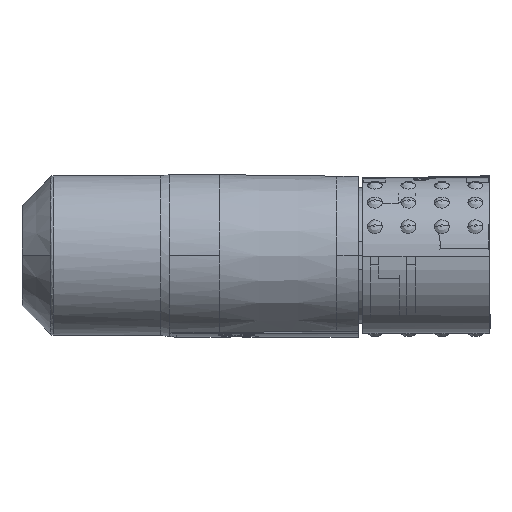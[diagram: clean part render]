
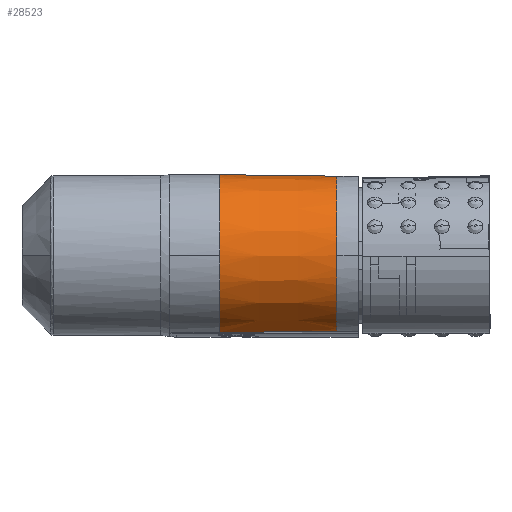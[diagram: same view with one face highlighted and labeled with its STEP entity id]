
A CAD part, top view. The second image highlights one B-rep face of the part: STEP entity #28523.
In plain terms, the highlighted conical face has half-angle 0.728 degrees and reference radius 10.66 mm.
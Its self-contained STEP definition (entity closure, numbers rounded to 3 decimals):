
#116 = VERTEX_POINT ( 'NONE', #63482 ) ;
#1628 = EDGE_LOOP ( 'NONE', ( #13717, #75778, #80075, #52667, #14424, #95344, #93107, #18989, #54878 ) ) ;
#1651 = CARTESIAN_POINT ( 'NONE',  ( 61.165, 1.73, 8.093 ) ) ;
#1661 = CARTESIAN_POINT ( 'NONE',  ( 76.895, -1.255, 9.797 ) ) ;
#1829 = B_SPLINE_CURVE_WITH_KNOTS ( 'NONE', 3,
 ( #7045, #44666, #8945, #1661, #31426, #24146, #61238, #7971, #37798, #7520 ),
 .UNSPECIFIED., .F., .F.,
 ( 4, 2, 2, 2, 4 ),
 ( 0.75, 0.8, 0.85, 0.9, 0.95 ),
 .UNSPECIFIED. ) ;
#2124 = FACE_OUTER_BOUND ( 'NONE', #1628, .T. ) ;
#3068 = CARTESIAN_POINT ( 'NONE',  ( 76.895, -15.729, 3.325 ) ) ;
#5145 = EDGE_CURVE ( 'NONE', #78056, #18802, #36345, .T. ) ;
#5641 = CARTESIAN_POINT ( 'NONE',  ( 61.165, -13.748, 7.272 ) ) ;
#7045 = CARTESIAN_POINT ( 'NONE',  ( 76.895, -5.601, 10.66 ) ) ;
#7073 = CARTESIAN_POINT ( 'NONE',  ( 61.165, -15.603, 4.384 ) ) ;
#7520 = CARTESIAN_POINT ( 'NONE',  ( 76.895, 4.527, 3.325 ) ) ;
#7971 = CARTESIAN_POINT ( 'NONE',  ( 76.895, 3.665, 5.386 ) ) ;
#8201 = CARTESIAN_POINT ( 'NONE',  ( 76.895, -12.756, 7.98 ) ) ;
#8462 = CARTESIAN_POINT ( 'NONE',  ( 61.165, 4.4, 4.384 ) ) ;
#8945 = CARTESIAN_POINT ( 'NONE',  ( 76.895, -3.374, 10.484 ) ) ;
#9961 = CARTESIAN_POINT ( 'NONE',  ( 61.165, -15.949, 3.295 ) ) ;
#10966 = CARTESIAN_POINT ( 'NONE',  ( 76.895, 4.527, 3.325 ) ) ;
#11190 = CARTESIAN_POINT ( 'NONE',  ( 76.895, -15.729, 3.325 ) ) ;
#12620 = CARTESIAN_POINT ( 'NONE',  ( 70.732, -15.813, 3.322 ) ) ;
#13717 = ORIENTED_EDGE ( 'NONE', *, *, #91884, .T. ) ;
#14329 = CARTESIAN_POINT ( 'NONE',  ( 61.173, -5.601, 10.86 ) ) ;
#14424 = ORIENTED_EDGE ( 'NONE', *, *, #31036, .F. ) ;
#14854 = CARTESIAN_POINT ( 'NONE',  ( 61.165, -10.058, 9.969 ) ) ;
#15059 = CARTESIAN_POINT ( 'NONE',  ( 76.895, -15.382, 4.383 ) ) ;
#15636 = CARTESIAN_POINT ( 'NONE',  ( 61.165, 5.259, 0. ) ) ;
#16391 = VERTEX_POINT ( 'NONE', #30358 ) ;
#18687 = DIRECTION ( 'NONE',  ( -1., 0., 0. ) ) ;
#18802 = VERTEX_POINT ( 'NONE', #45520 ) ;
#18989 = ORIENTED_EDGE ( 'NONE', *, *, #46296, .F. ) ;
#20548 = EDGE_CURVE ( 'NONE', #93512, #45805, #46551, .T. ) ;
#20581 = DIRECTION ( 'NONE',  ( 0., 1., 0. ) ) ;
#22668 = CARTESIAN_POINT ( 'NONE',  ( 61.165, -0.115, 9.441 ) ) ;
#23004 = CARTESIAN_POINT ( 'NONE',  ( 61.165, 4.747, 3.295 ) ) ;
#23218 = CARTESIAN_POINT ( 'NONE',  ( 63.977, -15.905, 3.315 ) ) ;
#24146 = CARTESIAN_POINT ( 'NONE',  ( 76.895, 1.553, 7.98 ) ) ;
#27424 = EDGE_CURVE ( 'NONE', #18802, #39761, #33700, .T. ) ;
#28031 = CARTESIAN_POINT ( 'NONE',  ( 61.165, -15.949, 3.295 ) ) ;
#28523 = ADVANCED_FACE ( 'NONE', ( #2124 ), #45941, .T. ) ;
#30358 = CARTESIAN_POINT ( 'NONE',  ( 76.895, 4.527, 3.325 ) ) ;
#30479 = CARTESIAN_POINT ( 'NONE',  ( 61.165, 4.747, 3.295 ) ) ;
#31036 = EDGE_CURVE ( 'NONE', #78056, #45805, #76441, .T. ) ;
#31426 = CARTESIAN_POINT ( 'NONE',  ( 76.895, -0.251, 9.287 ) ) ;
#31897 = CARTESIAN_POINT ( 'NONE',  ( 76.895, -5.601, 0. ) ) ;
#33700 = B_SPLINE_CURVE_WITH_KNOTS ( 'NONE', 3,
 ( #12620, #94332, #72280, #11190 ),
 .UNSPECIFIED., .F., .F.,
 ( 4, 4 ),
 ( 0., 1. ),
 .UNSPECIFIED. ) ;
#36345 = B_SPLINE_CURVE_WITH_KNOTS ( 'NONE', 3,
 ( #9961, #23218, #75993, #39312 ),
 .UNSPECIFIED., .F., .F.,
 ( 4, 4 ),
 ( 0., 1. ),
 .UNSPECIFIED. ) ;
#37300 = CARTESIAN_POINT ( 'NONE',  ( 61.165, 2.545, 7.272 ) ) ;
#37341 = CARTESIAN_POINT ( 'NONE',  ( 61.173, -5.601, 10.86 ) ) ;
#37798 = CARTESIAN_POINT ( 'NONE',  ( 76.895, 4.18, 4.383 ) ) ;
#39312 = CARTESIAN_POINT ( 'NONE',  ( 70.732, -15.813, 3.322 ) ) ;
#39761 = VERTEX_POINT ( 'NONE', #3068 ) ;
#41974 = EDGE_CURVE ( 'NONE', #93512, #53784, #85860, .T. ) ;
#44666 = CARTESIAN_POINT ( 'NONE',  ( 76.895, -4.488, 10.66 ) ) ;
#44695 = CARTESIAN_POINT ( 'NONE',  ( 61.165, -7.886, 10.678 ) ) ;
#45520 = CARTESIAN_POINT ( 'NONE',  ( 70.732, -15.813, 3.322 ) ) ;
#45805 = VERTEX_POINT ( 'NONE', #78577 ) ;
#45941 = CONICAL_SURFACE ( 'NONE', #63079, 10.66, 0.013 ) ;
#46296 = EDGE_CURVE ( 'NONE', #116, #39761, #65500, .T. ) ;
#46551 = B_SPLINE_CURVE_WITH_KNOTS ( 'NONE', 3,
 ( #30479, #8462, #51463, #37300, #1651, #22668, #73980, #60290, #81345, #14329 ),
 .UNSPECIFIED., .F., .F.,
 ( 4, 2, 2, 2, 4 ),
 ( 0.549, 0.599, 0.65, 0.7, 0.75 ),
 .UNSPECIFIED. ) ;
#48614 = VERTEX_POINT ( 'NONE', #91442 ) ;
#48640 = CARTESIAN_POINT ( 'NONE',  ( 76.895, 5.014, 1.127 ) ) ;
#50016 = EDGE_CURVE ( 'NONE', #48614, #53784, #96177, .T. ) ;
#51463 = CARTESIAN_POINT ( 'NONE',  ( 61.165, 3.88, 5.417 ) ) ;
#51687 = CARTESIAN_POINT ( 'NONE',  ( 76.895, -14.868, 5.386 ) ) ;
#52667 = ORIENTED_EDGE ( 'NONE', *, *, #20548, .T. ) ;
#52959 = EDGE_CURVE ( 'NONE', #116, #16391, #1829, .T. ) ;
#53784 = VERTEX_POINT ( 'NONE', #65199 ) ;
#54518 = CARTESIAN_POINT ( 'NONE',  ( 76.895, 4.703, 2.79 ) ) ;
#54878 = ORIENTED_EDGE ( 'NONE', *, *, #52959, .T. ) ;
#58397 = CARTESIAN_POINT ( 'NONE',  ( 61.165, -12.933, 8.093 ) ) ;
#60290 = CARTESIAN_POINT ( 'NONE',  ( 61.165, -3.316, 10.678 ) ) ;
#60508 = CARTESIAN_POINT ( 'NONE',  ( 76.895, -15.729, 3.325 ) ) ;
#61238 = CARTESIAN_POINT ( 'NONE',  ( 76.895, 2.352, 7.185 ) ) ;
#63079 = AXIS2_PLACEMENT_3D ( 'NONE', #31897, #18687, #20581 ) ;
#63482 = CARTESIAN_POINT ( 'NONE',  ( 76.895, -5.601, 10.66 ) ) ;
#65199 = CARTESIAN_POINT ( 'NONE',  ( 61.165, 5.259, 0. ) ) ;
#65500 = B_SPLINE_CURVE_WITH_KNOTS ( 'NONE', 3,
 ( #81579, #82565, #68314, #74683, #82071, #8201, #67341, #51687, #15059, #60508 ),
 .UNSPECIFIED., .F., .F.,
 ( 4, 2, 2, 2, 4 ),
 ( 0., 0.25, 0.5, 0.75, 1. ),
 .UNSPECIFIED. ) ;
#65687 = CARTESIAN_POINT ( 'NONE',  ( 61.165, -11.088, 9.441 ) ) ;
#67341 = CARTESIAN_POINT ( 'NONE',  ( 76.895, -13.554, 7.185 ) ) ;
#68314 = CARTESIAN_POINT ( 'NONE',  ( 76.895, -7.828, 10.484 ) ) ;
#69206 = CARTESIAN_POINT ( 'NONE',  ( 61.165, 4.747, 3.295 ) ) ;
#71591 = CARTESIAN_POINT ( 'NONE',  ( 76.895, 5.059, 0.564 ) ) ;
#72280 = CARTESIAN_POINT ( 'NONE',  ( 74.841, -15.757, 3.325 ) ) ;
#73980 = CARTESIAN_POINT ( 'NONE',  ( 61.165, -1.144, 9.969 ) ) ;
#74021 = CARTESIAN_POINT ( 'NONE',  ( 61.165, -15.949, 3.295 ) ) ;
#74490 = CARTESIAN_POINT ( 'NONE',  ( 61.165, -6.744, 10.86 ) ) ;
#74683 = CARTESIAN_POINT ( 'NONE',  ( 76.895, -9.947, 9.797 ) ) ;
#75273 = CARTESIAN_POINT ( 'NONE',  ( 61.165, 5.259, 1.116 ) ) ;
#75778 = ORIENTED_EDGE ( 'NONE', *, *, #50016, .T. ) ;
#75993 = CARTESIAN_POINT ( 'NONE',  ( 67.168, -15.86, 3.325 ) ) ;
#76441 = B_SPLINE_CURVE_WITH_KNOTS ( 'NONE', 3,
 ( #74021, #7073, #81882, #5641, #58397, #65687, #14854, #44695, #74490, #37341 ),
 .UNSPECIFIED., .F., .F.,
 ( 4, 2, 2, 2, 4 ),
 ( 0., 0.056, 0.111, 0.167, 0.223 ),
 .UNSPECIFIED. ) ;
#78056 = VERTEX_POINT ( 'NONE', #28031 ) ;
#78577 = CARTESIAN_POINT ( 'NONE',  ( 61.173, -5.601, 10.86 ) ) ;
#80075 = ORIENTED_EDGE ( 'NONE', *, *, #41974, .F. ) ;
#81345 = CARTESIAN_POINT ( 'NONE',  ( 61.165, -4.459, 10.86 ) ) ;
#81516 = CARTESIAN_POINT ( 'NONE',  ( 76.895, 5.059, 0. ) ) ;
#81579 = CARTESIAN_POINT ( 'NONE',  ( 76.895, -5.601, 10.66 ) ) ;
#81882 = CARTESIAN_POINT ( 'NONE',  ( 61.165, -15.083, 5.417 ) ) ;
#82071 = CARTESIAN_POINT ( 'NONE',  ( 76.895, -10.952, 9.287 ) ) ;
#82565 = CARTESIAN_POINT ( 'NONE',  ( 76.895, -6.715, 10.66 ) ) ;
#83145 = CARTESIAN_POINT ( 'NONE',  ( 61.165, 5.085, 2.232 ) ) ;
#85860 = B_SPLINE_CURVE_WITH_KNOTS ( 'NONE', 3,
 ( #23004, #83145, #75273, #15636 ),
 .UNSPECIFIED., .F., .F.,
 ( 4, 4 ),
 ( 0., 0.5 ),
 .UNSPECIFIED. ) ;
#86277 = CARTESIAN_POINT ( 'NONE',  ( 76.895, 5.059, 0. ) ) ;
#88844 = DIRECTION ( 'NONE',  ( -1., 0.013, 0. ) ) ;
#91442 = CARTESIAN_POINT ( 'NONE',  ( 76.895, 5.059, 0. ) ) ;
#91471 = VECTOR ( 'NONE', #88844, 1000. ) ;
#91884 = EDGE_CURVE ( 'NONE', #16391, #48614, #92372, .T. ) ;
#92372 = B_SPLINE_CURVE_WITH_KNOTS ( 'NONE', 3,
 ( #10966, #54518, #92676, #48640, #71591, #86277 ),
 .UNSPECIFIED., .F., .F.,
 ( 4, 2, 4 ),
 ( 0.95, 0.975, 1. ),
 .UNSPECIFIED. ) ;
#92676 = CARTESIAN_POINT ( 'NONE',  ( 76.895, 4.836, 2.24 ) ) ;
#93107 = ORIENTED_EDGE ( 'NONE', *, *, #27424, .T. ) ;
#93512 = VERTEX_POINT ( 'NONE', #69206 ) ;
#94332 = CARTESIAN_POINT ( 'NONE',  ( 72.786, -15.784, 3.325 ) ) ;
#95344 = ORIENTED_EDGE ( 'NONE', *, *, #5145, .T. ) ;
#96177 = LINE ( 'NONE', #81516, #91471 ) ;
